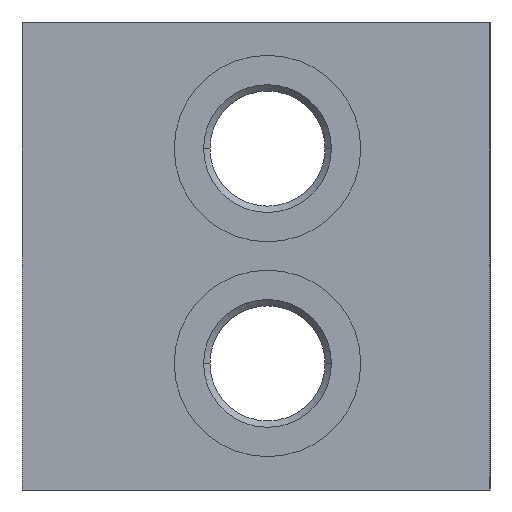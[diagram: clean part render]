
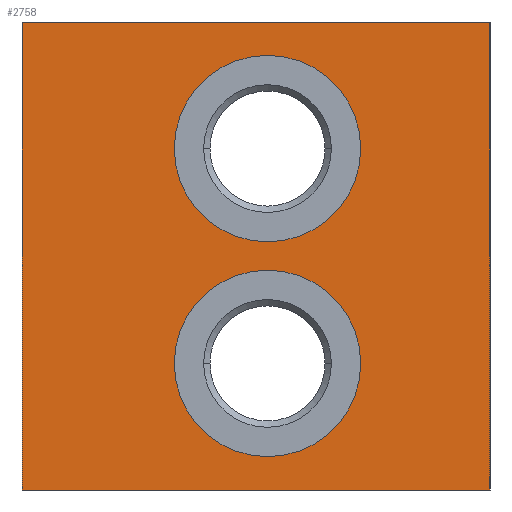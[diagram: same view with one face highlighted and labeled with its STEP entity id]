
A CAD part, left-side view. The second image highlights one B-rep face of the part: STEP entity #2758.
In plain terms, the highlighted planar face has unit normal (-1, 0, 0).
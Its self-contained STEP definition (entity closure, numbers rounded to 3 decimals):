
#25=DIRECTION('',(0.,-1.,0.));
#26=VECTOR('',#25,61.);
#27=CARTESIAN_POINT('',(0.,61.,0.));
#28=LINE('',#27,#26);
#77=DIRECTION('',(0.,0.,-1.));
#78=VECTOR('',#77,61.);
#79=CARTESIAN_POINT('',(0.,0.,0.));
#80=LINE('',#79,#78);
#513=DIRECTION('',(0.,0.,-1.));
#514=VECTOR('',#513,61.);
#515=CARTESIAN_POINT('',(0.,61.,0.));
#516=LINE('',#515,#514);
#517=CARTESIAN_POINT('',(0.,29.,-44.5));
#518=DIRECTION('',(1.,0.,0.));
#519=DIRECTION('',(0.,-1.,0.));
#520=AXIS2_PLACEMENT_3D('',#517,#518,#519);
#522=CARTESIAN_POINT('',(0.,29.,-44.5));
#523=DIRECTION('',(1.,0.,0.));
#524=DIRECTION('',(0.,1.,0.));
#525=AXIS2_PLACEMENT_3D('',#522,#523,#524);
#527=CARTESIAN_POINT('',(0.,29.,-16.5));
#528=DIRECTION('',(1.,0.,0.));
#529=DIRECTION('',(0.,-1.,0.));
#530=AXIS2_PLACEMENT_3D('',#527,#528,#529);
#532=CARTESIAN_POINT('',(0.,29.,-16.5));
#533=DIRECTION('',(1.,0.,0.));
#534=DIRECTION('',(0.,1.,0.));
#535=AXIS2_PLACEMENT_3D('',#532,#533,#534);
#549=DIRECTION('',(0.,-1.,0.));
#550=VECTOR('',#549,61.);
#551=CARTESIAN_POINT('',(0.,61.,-61.));
#552=LINE('',#551,#550);
#2101=CARTESIAN_POINT('',(0.,0.,0.));
#2103=VERTEX_POINT('',#2101);
#2107=CARTESIAN_POINT('',(0.,61.,0.));
#2108=VERTEX_POINT('',#2107);
#2109=CARTESIAN_POINT('',(0.,0.,-61.));
#2111=VERTEX_POINT('',#2109);
#2115=CARTESIAN_POINT('',(0.,61.,-61.));
#2116=VERTEX_POINT('',#2115);
#2129=CARTESIAN_POINT('',(0.,16.85,-44.5));
#2130=CARTESIAN_POINT('',(0.,41.15,-44.5));
#2131=VERTEX_POINT('',#2129);
#2132=VERTEX_POINT('',#2130);
#2145=CARTESIAN_POINT('',(0.,16.85,-16.5));
#2146=CARTESIAN_POINT('',(0.,41.15,-16.5));
#2147=VERTEX_POINT('',#2145);
#2148=VERTEX_POINT('',#2146);
#2734=CARTESIAN_POINT('',(0.,61.,0.));
#2735=DIRECTION('',(-1.,0.,0.));
#2736=DIRECTION('',(0.,-1.,0.));
#2737=AXIS2_PLACEMENT_3D('',#2734,#2735,#2736);
#2738=PLANE('',#2737);
#2739=ORIENTED_EDGE('',*,*,#2526,.T.);
#2740=ORIENTED_EDGE('',*,*,#2569,.T.);
#2742=ORIENTED_EDGE('',*,*,#2741,.F.);
#2743=ORIENTED_EDGE('',*,*,#2618,.F.);
#2744=EDGE_LOOP('',(#2739,#2740,#2742,#2743));
#2745=FACE_OUTER_BOUND('',#2744,.F.);
#2747=ORIENTED_EDGE('',*,*,#2746,.F.);
#2749=ORIENTED_EDGE('',*,*,#2748,.F.);
#2750=EDGE_LOOP('',(#2747,#2749));
#2751=FACE_BOUND('',#2750,.F.);
#2753=ORIENTED_EDGE('',*,*,#2752,.F.);
#2755=ORIENTED_EDGE('',*,*,#2754,.F.);
#2756=EDGE_LOOP('',(#2753,#2755));
#2757=FACE_BOUND('',#2756,.F.);
#521=CIRCLE('',#520,12.15);
#526=CIRCLE('',#525,12.15);
#531=CIRCLE('',#530,12.15);
#536=CIRCLE('',#535,12.15);
#2526=EDGE_CURVE('',#2108,#2103,#28,.T.);
#2569=EDGE_CURVE('',#2103,#2111,#80,.T.);
#2618=EDGE_CURVE('',#2108,#2116,#516,.T.);
#2741=EDGE_CURVE('',#2116,#2111,#552,.T.);
#2746=EDGE_CURVE('',#2131,#2132,#521,.T.);
#2748=EDGE_CURVE('',#2132,#2131,#526,.T.);
#2752=EDGE_CURVE('',#2147,#2148,#531,.T.);
#2754=EDGE_CURVE('',#2148,#2147,#536,.T.);
#2758=ADVANCED_FACE('',(#2745,#2751,#2757),#2738,.T.);
